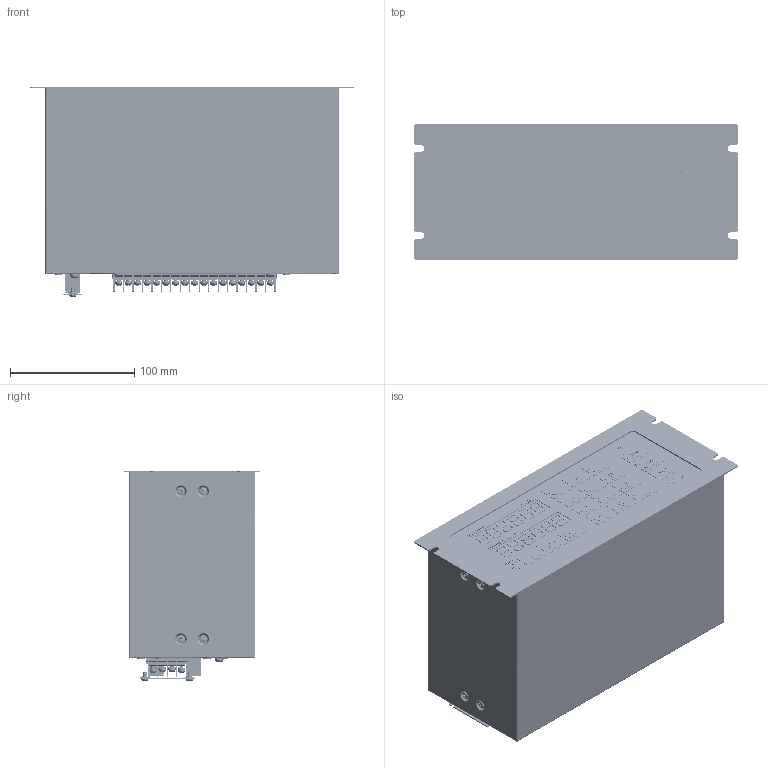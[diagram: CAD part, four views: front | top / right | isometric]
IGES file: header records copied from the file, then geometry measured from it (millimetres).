
Start section: SolidWorks IGES file using analytic representation for surfaces
Bounding box: 260 x 110 x 169.75 mm (x, y, z)
Surface area: 452143.3 mm2 (no closed solid volume)
Topology: 0 solids, 0 shells, 13836 faces, 109705 edges, 109699 vertices
Faces by surface type: bspline 12218, revolution 1618
